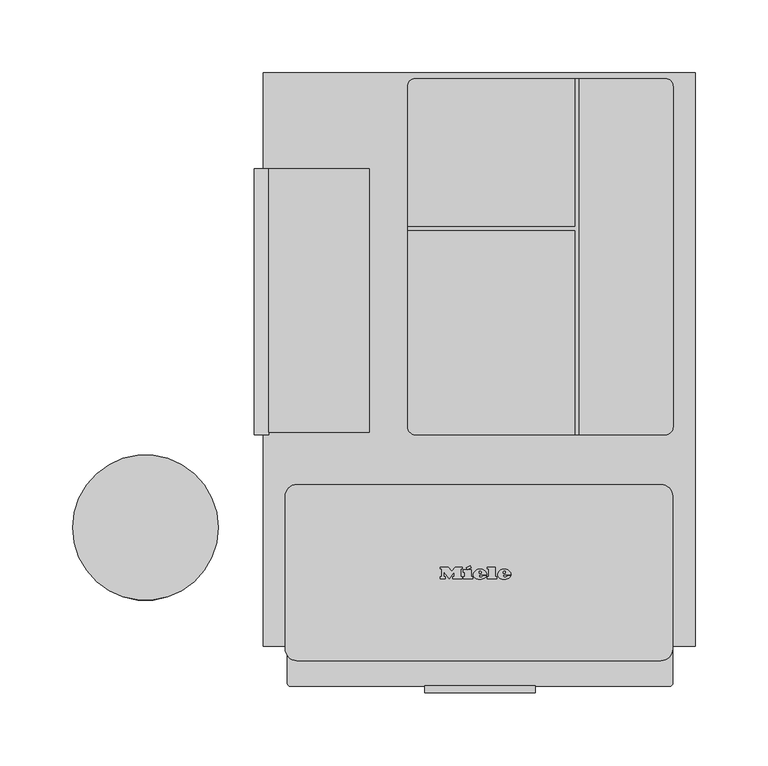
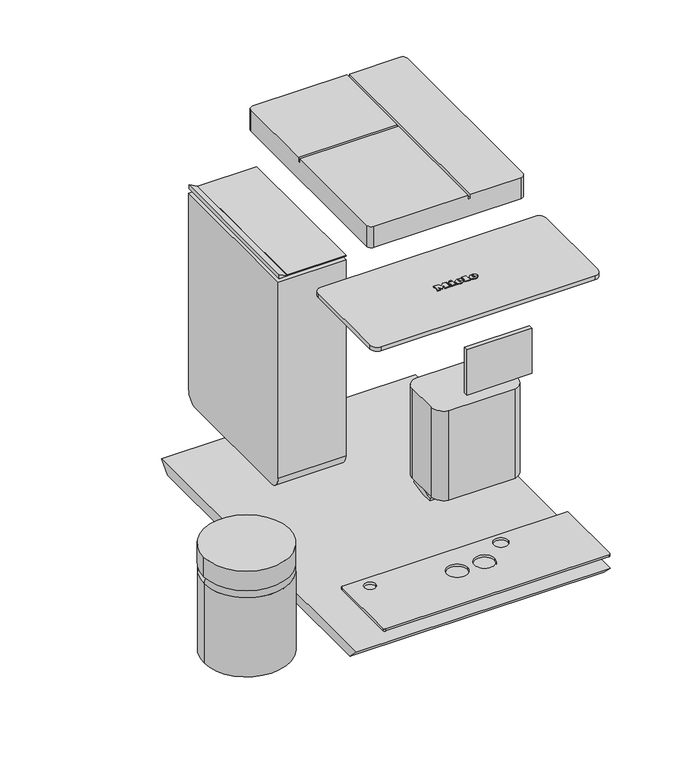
"""IFC4 building model written with IfcOpenShell, lengths in millimetres: proxy geometry, 11106260_USA_CM7750_OBSW : 29775020_USA_11106260_CM7750_OBSW."""

from ifc_helpers import new_model, si_unit, point, frame, frame_2d, origin, place, context, project, spatial, polyline, circle_curve, ellipse_curve, trimmed, segment, composite_curve, outline, extrude, source, transform, mapped, element, save
from ifc_brep_helpers import plane_surface, cylinder_surface, revolved_surface, extruded_surface, advanced_brep


def specialty_equipment_1049582b(model_context):
    return source(origin(), model_context, "Body", "SolidModel", [
        advanced_brep(
        [(-21.9798889, -369.1927719, 161.3772661), (-26.907768, -371.768887, 161.3772661), (-27.9558868, -374.6430309, 158.8788109), (-27.9558868, -374.6430309, 154.4386806), (-21.9798889, -369.1927719, 154.4386806), (-3.6390347, -369.1927719, 161.3772661), (-3.6390347, -369.1927719, 154.4386806), (-2.5488111, -367.8394647, 161.3772661), (-2.955399, -368.8197581, 154.4386806), (-2.5488111, -367.8394647, 154.6115327), (-2.5488111, -365.8411419, 161.3772661), (-2.5488111, -365.8411419, 154.963891), (2.5085862, -365.8421526, 161.3772661), (2.5085862, -365.8421526, 154.9637128), (2.5085862, -367.8394647, 161.3772661), (2.5085862, -367.8394647, 154.6115327), (3.5988064, -369.1927719, 161.3772661), (2.7634089, -368.8197581, 154.4386806), (3.5988064, -369.1927719, 154.4386806), (21.9798889, -369.1927719, 161.3772661), (21.9798889, -369.1927719, 154.4386806), (26.907768, -371.768887, 161.3772661), (48.9347044, -350.553441, 157.6595251), (48.9347044, -352.1242227, 164.4633282), (48.9347044, -358.515093, 164.4633282), (48.9347044, -370.8076358, 161.8504675), (48.9347044, -371.768887, 161.3772661), (48.9347044, -376.3814874, 157.3675938), (48.9347044, -382.6123957, 157.3675938), (48.9347044, -382.6123957, 154.4386806), (48.9347044, -368.8197581, 154.4386806), (-49.1367985, -350.553441, 157.6595251), (-49.1367985, -368.8197581, 154.4386806), (-49.1367985, -382.6123957, 154.4386806), (-49.1367985, -382.6123957, 157.3675938), (-49.1367985, -376.3814874, 157.3675938), (-49.1367985, -371.768887, 161.3772661), (-49.1367985, -370.8076358, 161.8504675), (-49.1367985, -358.515093, 164.4633282), (-49.1367985, -352.1242227, 164.4633282), (27.9558868, -376.3814874, 157.3675938), (27.9558868, -382.6123957, 157.3675938), (-27.9558868, -382.6123957, 157.3675938), (-27.9558868, -376.3814874, 157.3675938), (27.9558868, -374.6430309, 158.8788109), (27.9558868, -382.6123957, 154.4386806), (-27.9558868, -382.6123957, 154.4386806), (27.9558868, -374.6430309, 154.4386806)],
        [
            (0, 1, circle_curve(frame((-21.9798889, -375.1941266, 161.3772661), z_axis=(0.0, 0.0, 1.0), x_axis=(1.0, 0.0, 0.0)), 6.0013546)),
            (1, 2, ellipse_curve(frame((-21.9798889, -375.1941266, 158.3997508), z_axis=(0.0, -0.6560590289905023, 0.7547095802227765), x_axis=(0.0, 0.7547095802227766, 0.6560590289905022)), 7.9518729, 6.0013546)),
            (2, 3),
            (3, 4, circle_curve(frame((-21.9798889, -375.1941266, 154.4386806), z_axis=(0.0, 0.0, -1.0), x_axis=(1.0, 0.0, 0.0)), 6.0013546)),
            (4, 0),
            (5, 0),
            (4, 6),
            (6, 5),
            (7, 5, circle_curve(frame((-3.9338609, -367.8394647, 161.3772661), z_axis=(0.0, 0.0, -1.0), x_axis=(1.0, 0.0, 0.0)), 1.3850498)),
            (6, 8, circle_curve(frame((-3.9338609, -367.8394647, 154.4386806), z_axis=(0.0, 0.0, 1.0), x_axis=(1.0, 0.0, 0.0)), 1.3850498)),
            (8, 9, ellipse_curve(frame((-3.9338609, -367.8394647, 154.6115327), z_axis=(0.0, -0.17364817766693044, 0.984807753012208), x_axis=(0.0, -0.9848077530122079, -0.17364817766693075)), 1.4064164, 1.3850498)),
            (9, 7),
            (10, 7),
            (9, 11),
            (11, 10),
            (12, 10, circle_curve(frame((-0.0204016, -367.2885217, 161.3772661), z_axis=(0.0, 0.0, 1.0), x_axis=(1.0, 0.0, 0.0)), 2.9133766)),
            (11, 13, ellipse_curve(frame((-0.0204016, -367.2885217, 154.7086789), z_axis=(0.0, 0.17364817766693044, -0.984807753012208), x_axis=(0.0, 0.9848077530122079, 0.17364817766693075)), 2.9583201, 2.9133766)),
            (13, 12),
            (14, 12),
            (13, 15),
            (15, 14),
            (16, 14, circle_curve(frame((3.5988064, -368.0707917, 161.3772661), z_axis=(0.0, 0.0, -1.0), x_axis=(1.0, 0.0, 0.0)), 1.1219802)),
            (15, 17, ellipse_curve(frame((3.5988064, -368.0707917, 154.5707435), z_axis=(0.0, -0.17364817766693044, 0.984807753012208), x_axis=(0.0, -0.9848077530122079, -0.17364817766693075)), 1.1392885, 1.1219802)),
            (17, 18, circle_curve(frame((3.5988064, -368.0707917, 154.4386806), z_axis=(0.0, 0.0, 1.0), x_axis=(1.0, 0.0, 0.0)), 1.1219802)),
            (18, 16),
            (19, 16),
            (18, 20),
            (20, 19),
            (19, 21, circle_curve(frame((21.9798889, -375.1941266, 161.3772661), z_axis=(0.0, 0.0, -1.0), x_axis=(1.0, 0.0, 0.0)), 6.0013546)),
            (21, 1),
            (22, 23),
            (23, 24),
            (24, 25),
            (25, 26, circle_curve(frame((48.9347044, -370.3539063, 159.7158378), z_axis=(1.0, 0.0, 0.0), x_axis=(0.0, 1.0, 0.0)), 2.1823186)),
            (26, 27),
            (27, 28),
            (28, 29),
            (29, 30),
            (30, 22),
            (31, 32),
            (32, 33),
            (33, 34),
            (34, 35),
            (35, 36),
            (36, 37, circle_curve(frame((-49.1367985, -370.3539063, 159.7158378), z_axis=(-1.0, 0.0, 0.0), x_axis=(0.0, 1.0, 0.0)), 2.1823186)),
            (37, 38),
            (38, 39),
            (39, 31),
            (22, 31),
            (39, 23),
            (38, 24),
            (37, 25),
            (36, 1),
            (21, 26),
            (27, 40),
            (40, 41),
            (41, 28),
            (34, 42),
            (42, 43),
            (43, 35),
            (21, 44, ellipse_curve(frame((21.9798889, -375.1941266, 158.3997508), z_axis=(0.0, 0.6560590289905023, -0.7547095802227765), x_axis=(0.0, 0.7547095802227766, 0.6560590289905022)), 7.9518729, 6.0013546)),
            (44, 40),
            (43, 2),
            (41, 45),
            (45, 29),
            (33, 46),
            (46, 42),
            (45, 47),
            (47, 20, circle_curve(frame((21.9798889, -375.1941266, 154.4386806), z_axis=(0.0, 0.0, 1.0), x_axis=(1.0, 0.0, 0.0)), 6.0013546)),
            (17, 30),
            (32, 8),
            (3, 46),
            (44, 47),
        ],
        [
            revolved_surface(polyline([(-15.9785343, -375.1941266, 163.6166488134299), (-15.9785343, -375.1941266, 153.1828527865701)]), (-21.9798889, -375.1941266, 148.8055891), (0.0, 0.0, 1.0)),
            plane_surface(frame((-3.6390347, -369.1927719, 161.3772661), z_axis=(0.0, -1.0, 0.0), x_axis=(0.0, 0.0, -1.0))),
            cylinder_surface(frame((-3.9338609, -367.8394647, 148.8055891), z_axis=(0.0, 0.0, -1.0), x_axis=(1.0, 0.0, 0.0)), 1.3850498),
            plane_surface(frame((-2.5488111, -365.8411419, 161.3772661), z_axis=(1.0, 0.0, 0.0), x_axis=(0.0, 0.0, -1.0))),
            revolved_surface(polyline([(2.892975, -367.2885217, 161.3772661), (2.892975, -367.2885217, 154.19497200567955)]), (-0.0204016, -367.2885217, 148.8055891), (0.0, 0.0, 1.0)),
            plane_surface(frame((2.5085862, -367.8394647, 161.3772661), z_axis=(-1.0, 0.0, 0.0), x_axis=(0.0, 0.0, -1.0))),
            cylinder_surface(frame((3.5988064, -368.0707917, 148.8055891), z_axis=(0.0, 0.0, -1.0), x_axis=(1.0, 0.0, 0.0)), 1.1219802),
            plane_surface(frame((21.9798889, -369.1927719, 161.3772661), z_axis=(0.0, -1.0, 0.0), x_axis=(0.0, 0.0, -1.0))),
            plane_surface(frame((3.5988064, -369.1927719, 161.3772661), z_axis=(0.0, 0.0, -1.0), x_axis=(-1.0, 0.0, 0.0))),
            plane_surface(frame((48.9347044, -352.1242227, 164.4633282), z_axis=(1.0, 0.0, 0.0), x_axis=(0.0, -0.22495105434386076, 0.9743700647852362))),
            plane_surface(frame((-49.1367985, -352.1242227, 164.4633282), z_axis=(-1.0, 0.0, 0.0), x_axis=(0.0, 0.22495105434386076, -0.9743700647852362))),
            plane_surface(frame((48.9347044, -350.553441, 157.6595251), z_axis=(0.0, 0.9743700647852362, 0.22495105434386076), x_axis=(-1.0, 0.0, 0.0))),
            plane_surface(frame((48.9347044, -352.1242227, 164.4633282), z_axis=(0.0, 0.0, 1.0), x_axis=(-1.0, 0.0, 0.0))),
            plane_surface(frame((48.9347044, -358.515093, 164.4633282), z_axis=(0.0, -0.20791169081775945, 0.9781476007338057), x_axis=(-1.0, 0.0, 0.0))),
            cylinder_surface(frame((-49.1367985, -370.3539063, 159.7158378), z_axis=(1.0, 0.0, 0.0), x_axis=(0.0, 1.0, 0.0)), 2.1823186),
            plane_surface(frame((48.9347044, -376.3814874, 157.3675938), z_axis=(0.0, 0.0, 1.0), x_axis=(-1.0, 0.0, 0.0))),
            plane_surface(frame((48.9347044, -371.768887, 161.3772661), z_axis=(0.0, -0.6560590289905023, 0.7547095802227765), x_axis=(-1.0, 0.0, 0.0))),
            plane_surface(frame((48.9347044, -382.6123957, 157.3675938), z_axis=(0.0, -1.0, 0.0), x_axis=(-1.0, 0.0, 0.0))),
            plane_surface(frame((48.9347044, -382.6123957, 154.4386806), z_axis=(0.0, 0.0, -1.0), x_axis=(-1.0, 0.0, 0.0))),
            plane_surface(frame((48.9347044, -368.8197581, 154.4386806), z_axis=(0.0, 0.17364817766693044, -0.984807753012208), x_axis=(-1.0, 0.0, 0.0))),
            plane_surface(frame((-27.9558868, -374.6430309, 161.3772661), z_axis=(1.0, 0.0, 0.0), x_axis=(0.0, 0.0, -1.0))),
            plane_surface(frame((27.9558868, -386.10478, 161.3772661), z_axis=(-1.0, 0.0, 0.0), x_axis=(0.0, 0.0, -1.0))),
            revolved_surface(polyline([(27.981243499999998, -375.1941266, 163.6166488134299), (27.981243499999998, -375.1941266, 153.1828527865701)]), (21.9798889, -375.1941266, 148.8055891), (0.0, 0.0, 1.0)),
        ],
        [
            (0, [[1, 2, 3, 4, 5]]),
            (1, [[6, -5, 7, 8]]),
            (2, [[9, -8, 10, 11, 12]]),
            (3, [[13, -12, 14, 15]]),
            (4, [[16, -15, 17, 18]]),
            (5, [[19, -18, 20, 21]]),
            (6, [[22, -21, 23, 24, 25]]),
            (7, [[26, -25, 27, 28]]),
            (8, [[-6, -9, -13, -16, -19, -22, -26, 29, 30, -1]]),
            (9, [[31, 32, 33, 34, 35, 36, 37, 38, 39]]),
            (10, [[40, 41, 42, 43, 44, 45, 46, 47, 48]]),
            (11, [[-31, 49, -48, 50]]),
            (12, [[-32, -50, -47, 51]]),
            (13, [[-33, -51, -46, 52]]),
            (14, [[-34, -52, -45, 53, -30, 54]]),
            (15, [[-36, 55, 56, 57]]),
            (15, [[-43, 58, 59, 60]]),
            (16, [[-35, -54, 61, 62, -55]]),
            (16, [[-44, -60, 63, -2, -53]]),
            (17, [[-37, -57, 64, 65]]),
            (17, [[-42, 66, 67, -58]]),
            (18, [[-38, -65, 68, 69, -27, -24, 70]]),
            (18, [[-41, 71, -10, -7, -4, 72, -66]]),
            (19, [[-39, -70, -23, -20, -17, -14, -11, -71, -40, -49]]),
            (20, [[-3, -63, -59, -67, -72]]),
            (21, [[73, -68, -64, -56, -62]]),
            (22, [[-29, -28, -69, -73, -61]]),
        ],
    ),
        extrude(outline(composite_curve([segment(polyline([(38.3905057, -403.7777426), (-39.7114952, -403.7777426)]), True, "CONTINUOUS"), segment(trimmed(circle_curve(frame_2d((-35.7828285, -388.5783629)), 15.6989033), [point((-39.7114952, -403.7777426))], [point((-51.4817318, -388.5783629))], False, "CARTESIAN"), True, "CONTINUOUS"), segment(polyline([(-51.4817318, -388.5783629), (-51.4817318, -350.8926661)]), True, "CONTINUOUS"), segment(trimmed(circle_curve(frame_2d((-37.9279503, -350.8926661)), 13.5537815), [point((-51.4817318, -350.8926661))], [point((-37.9279503, -337.3388846))], False, "CARTESIAN"), True, "CONTINUOUS"), segment(polyline([(-37.9279503, -337.3388846), (36.6069608, -337.3388846)]), True, "CONTINUOUS"), segment(trimmed(circle_curve(frame_2d((36.6069608, -350.8926661)), 13.5537815), [point((36.6069608, -337.3388846))], [point((50.1607423, -350.8926661))], False, "CARTESIAN"), True, "CONTINUOUS"), segment(polyline([(50.1607423, -350.8926661), (50.1607423, -388.5783629)]), True, "CONTINUOUS"), segment(trimmed(circle_curve(frame_2d((34.461839, -388.5783629)), 15.6989033), [point((50.1607423, -388.5783629))], [point((38.3905057, -403.7777426))], False, "CARTESIAN"), True, "CONTINUOUS")], self_intersect=False)), frame((0.0, 0.0, 164.4633282), z_axis=(0.0, 0.0, 1.0), x_axis=(1.0, 0.0, 0.0)), (0.0, 0.0, 1.0), 110.4083251),
        extrude(outline(composite_curve([segment(trimmed(circle_curve(frame_2d((130.7278103, -348.6990032)), 2.0), [point((130.7278103, -346.6990032))], [point((132.7278103, -348.6990032))], False, "CARTESIAN"), True, "CONTINUOUS"), segment(polyline([(132.7278103, -348.6990032), (132.7278103, -431.7959701)]), True, "CONTINUOUS"), segment(trimmed(circle_curve(frame_2d((130.7278103, -431.7959701)), 2.0), [point((132.7278103, -431.7959701))], [point((130.7278103, -433.7959701))], False, "CARTESIAN"), True, "CONTINUOUS"), segment(polyline([(130.7278103, -433.7959701), (-130.3254782, -433.7959701)]), True, "CONTINUOUS"), segment(trimmed(circle_curve(frame_2d((-130.3254782, -431.7959701)), 2.0), [point((-130.3254782, -433.7959701))], [point((-132.3254782, -431.7959701))], False, "CARTESIAN"), True, "CONTINUOUS"), segment(polyline([(-132.3254782, -431.7959701), (-132.3254782, -348.6990032)]), True, "CONTINUOUS"), segment(trimmed(circle_curve(frame_2d((-130.3254782, -348.6990032)), 2.0), [point((-132.3254782, -348.6990032))], [point((-130.3254782, -346.6990032))], False, "CARTESIAN"), True, "CONTINUOUS"), segment(polyline([(-130.3254782, -346.6990032), (130.7278103, -346.6990032)]), True, "CONTINUOUS")], self_intersect=False), holes=[composite_curve([segment(trimmed(circle_curve(frame_2d((-106.0, -360.0695515)), 6.5), [point((-112.5, -360.0695515))], [point((-99.5, -360.0695515))], True, "CARTESIAN"), True, "CONTINUOUS"), segment(trimmed(circle_curve(frame_2d((-106.0, -360.0695515)), 6.5), [point((-99.5, -360.0695515))], [point((-112.5, -360.0695515))], True, "CARTESIAN"), True, "CONTINUOUS")], self_intersect=False), composite_curve([segment(trimmed(circle_curve(frame_2d((47.0, -360.0695515)), 8.3097553), [point((38.6902447, -360.0695515))], [point((55.3097553, -360.0695515))], True, "CARTESIAN"), True, "CONTINUOUS"), segment(trimmed(circle_curve(frame_2d((47.0, -360.0695515)), 8.3097553), [point((55.3097553, -360.0695515))], [point((38.6902447, -360.0695515))], True, "CARTESIAN"), True, "CONTINUOUS")], self_intersect=False), composite_curve([segment(trimmed(circle_curve(frame_2d((-16.2949549, -381.0695496)), 11.8347447), [point((-28.1296996, -381.0695496))], [point((-4.4602101, -381.0695496))], True, "CARTESIAN"), True, "CONTINUOUS"), segment(trimmed(circle_curve(frame_2d((-16.2949549, -381.0695496)), 11.8347447), [point((-4.4602101, -381.0695496))], [point((-28.1296996, -381.0695496))], True, "CARTESIAN"), True, "CONTINUOUS")], self_intersect=False), composite_curve([segment(trimmed(circle_curve(frame_2d((15.7158998, -381.0695496)), 11.8148867), [point((3.9010131, -381.0695496))], [point((27.5307866, -381.0695496))], True, "CARTESIAN"), True, "CONTINUOUS"), segment(trimmed(circle_curve(frame_2d((15.7158998, -381.0695496)), 11.8148867), [point((27.5307866, -381.0695496))], [point((3.9010131, -381.0695496))], True, "CARTESIAN"), True, "CONTINUOUS")], self_intersect=False)]), frame((0.0, 0.0, 53.082887), z_axis=(0.0, 0.0, 1.0), x_axis=(1.0, 0.0, 0.0)), (0.0, 0.0, 1.0), 2.5999991),
        advanced_brep(
        [(16.1938716, -357.9860073, 393.0), (16.1938716, -357.1780073, 393.0), (21.5458716, -357.1780073, 393.0), (12.2338716, -357.1780073, 393.0), (14.4338716, -359.8820073, 393.0), (21.4098716, -357.9860073, 393.0), (18.9938716, -357.9860073, 393.0), (17.0898716, -358.8820073, 393.0), (16.1938716, -356.1540073, 393.0), (16.1938716, -355.2820073, 393.0), (17.5618716, -355.2820073, 393.0), (17.5618716, -356.1540073, 393.0), (16.1938716, -357.9860073, 392.0), (17.0898716, -358.8820073, 392.0), (18.9938716, -357.9860073, 392.0), (21.4098716, -357.9860073, 392.0), (14.4338716, -359.8820073, 392.0), (12.2338716, -357.1780073, 392.0), (21.5458716, -357.1780073, 392.0), (16.1938716, -357.1780073, 392.0), (16.1938716, -356.1540073, 392.0), (17.5618716, -356.1540073, 392.0), (17.5618716, -355.2820073, 392.0), (16.1938716, -355.2820073, 392.0)],
        [
            (0, 1),
            (1, 2),
            (2, 3, ellipse_curve(frame((16.8898716, -357.1780073, 393.0), z_axis=(0.0, 0.0, 1.0), x_axis=(-1.0, 0.0, 0.0)), 4.656, 3.848)),
            (3, 4, circle_curve(frame((15.3299152, -356.9060073, 393.0), z_axis=(0.0, 0.0, 1.0), x_axis=(0.0, -1.0, 0.0)), 3.1079688)),
            (4, 5, circle_curve(frame((16.7966651, -354.7940073, 393.0), z_axis=(0.0, 0.0, 1.0), x_axis=(0.0, -1.0, 0.0)), 5.6098607)),
            (5, 6),
            (6, 7, circle_curve(frame((17.4809304, -357.2420073, 393.0), z_axis=(0.0, 0.0, -1.0), x_axis=(0.0, -1.0, 0.0)), 1.6859795)),
            (7, 0, circle_curve(frame((17.0898716, -357.9860073, 393.0), z_axis=(0.0, 0.0, -1.0), x_axis=(0.0, -1.0, 0.0)), 0.896)),
            (8, 9),
            (9, 10, circle_curve(frame((16.8778716, -355.2820073, 393.0), z_axis=(0.0, 0.0, -1.0), x_axis=(0.0, -1.0, 0.0)), 0.684)),
            (10, 11),
            (11, 8),
            (12, 13, circle_curve(frame((17.0898716, -357.9860073, 392.0), z_axis=(0.0, 0.0, 1.0), x_axis=(0.0, -1.0, 0.0)), 0.896)),
            (13, 14, circle_curve(frame((17.4809304, -357.2420073, 392.0), z_axis=(0.0, 0.0, 1.0), x_axis=(0.0, -1.0, 0.0)), 1.6859795)),
            (14, 15),
            (15, 16, circle_curve(frame((16.7966651, -354.7940073, 392.0), z_axis=(0.0, 0.0, -1.0), x_axis=(0.0, -1.0, 0.0)), 5.6098607)),
            (16, 17, circle_curve(frame((15.3299152, -356.9060073, 392.0), z_axis=(0.0, 0.0, -1.0), x_axis=(0.0, -1.0, 0.0)), 3.1079688)),
            (17, 18, ellipse_curve(frame((16.8898716, -357.1780073, 392.0), z_axis=(0.0, 0.0, -1.0), x_axis=(-1.0, 0.0, 0.0)), 4.656, 3.848)),
            (18, 19),
            (19, 12),
            (20, 21),
            (21, 22),
            (22, 23, circle_curve(frame((16.8778716, -355.2820073, 392.0), z_axis=(0.0, 0.0, 1.0), x_axis=(0.0, -1.0, 0.0)), 0.684)),
            (23, 20),
            (0, 12),
            (19, 1),
            (18, 2),
            (5, 15),
            (14, 6),
            (17, 3),
            (13, 7),
            (16, 4),
            (8, 20),
            (23, 9),
            (22, 10),
            (21, 11),
        ],
        [
            plane_surface(frame((16.1938716, -357.1780073, 393.0), z_axis=(0.0, 0.0, 1.0), x_axis=(0.0, 1.0, 0.0))),
            plane_surface(frame((16.1938716, -357.1780073, 392.0), z_axis=(0.0, 0.0, -1.0), x_axis=(0.0, -1.0, 0.0))),
            plane_surface(frame((16.1938716, -357.9860073, 393.0), z_axis=(1.0, 0.0, 0.0), x_axis=(0.0, 0.0, -1.0))),
            plane_surface(frame((16.1938716, -357.1780073, 393.0), z_axis=(0.0, -1.0, 0.0), x_axis=(0.0, 0.0, -1.0))),
            plane_surface(frame((21.4098716, -357.9860073, 393.0), z_axis=(0.0, 1.0, 0.0), x_axis=(0.0, 0.0, -1.0))),
            extruded_surface(trimmed(ellipse_curve(frame((16.8898716, -357.1780073, 391.0), z_axis=(0.0, 0.0, 1.0), x_axis=(-1.0, 0.0, 0.0)), 4.656, 3.848), [point((21.5458716, -357.1780073, 391.0))], [point((12.2338716, -357.1780073, 391.0))], True, "CARTESIAN"), (0.0, 0.0, 1.0), 1.0),
            revolved_surface(polyline([(17.4809304, -358.9279868, 392.0), (17.4809304, -358.9279868, 393.0)]), (17.4809304, -357.2420073, 392.0), (0.0, 0.0, -1.0)),
            revolved_surface(polyline([(17.0898716, -358.8820073, 392.0), (17.0898716, -358.8820073, 393.0)]), (17.0898716, -357.9860073, 392.0), (0.0, 0.0, -1.0)),
            cylinder_surface(frame((15.3299152, -356.9060073, 392.0), z_axis=(0.0, 0.0, 1.0), x_axis=(0.0, -1.0, 0.0)), 3.1079688),
            cylinder_surface(frame((16.7966651, -354.7940073, 392.0), z_axis=(0.0, 0.0, 1.0), x_axis=(0.0, -1.0, 0.0)), 5.6098607),
            plane_surface(frame((16.1938716, -356.1540073, 393.0), z_axis=(1.0, 0.0, 0.0), x_axis=(0.0, 0.0, -1.0))),
            revolved_surface(polyline([(16.8778716, -355.9660073, 392.0), (16.8778716, -355.9660073, 393.0)]), (16.8778716, -355.2820073, 392.0), (0.0, 0.0, -1.0)),
            plane_surface(frame((17.5618716, -355.2820073, 393.0), z_axis=(-1.0, 0.0, 0.0), x_axis=(0.0, 0.0, -1.0))),
            plane_surface(frame((17.5618716, -356.1540073, 393.0), z_axis=(0.0, 1.0, 0.0), x_axis=(0.0, 0.0, -1.0))),
        ],
        [
            (0, [[1, 2, 3, 4, 5, 6, 7, 8], [9, 10, 11, 12]]),
            (1, [[13, 14, 15, 16, 17, 18, 19, 20], [21, 22, 23, 24]]),
            (2, [[-1, 25, -20, 26]]),
            (3, [[-2, -26, -19, 27]]),
            (4, [[-6, 28, -15, 29]]),
            (5, [[-3, -27, -18, 30]]),
            (6, [[-7, -29, -14, 31]]),
            (7, [[-8, -31, -13, -25]]),
            (8, [[-4, -30, -17, 32]]),
            (9, [[-5, -32, -16, -28]]),
            (10, [[-9, 33, -24, 34]]),
            (11, [[-10, -34, -23, 35]]),
            (12, [[-11, -35, -22, 36]]),
            (13, [[-12, -36, -21, -33]]),
        ],
    ),
        advanced_brep(
        [(-0.5021284, -357.9860073, 393.0), (-0.5021284, -357.1780073, 393.0), (4.8498716, -357.1780073, 393.0), (-4.4621284, -357.1780073, 393.0), (-2.2621284, -359.8820073, 393.0), (4.7138716, -357.9860073, 393.0), (2.2978716, -357.9860073, 393.0), (0.3938716, -358.8820073, 393.0), (-0.5021284, -356.1540073, 393.0), (-0.5021284, -355.2820073, 393.0), (0.8658716, -355.2820073, 393.0), (0.8658716, -356.1540073, 393.0), (-0.5021284, -357.9860073, 392.0), (0.3938716, -358.8820073, 392.0), (2.2978716, -357.9860073, 392.0), (4.7138716, -357.9860073, 392.0), (-2.2621284, -359.8820073, 392.0), (-4.4621284, -357.1780073, 392.0), (4.8498716, -357.1780073, 392.0), (-0.5021284, -357.1780073, 392.0), (-0.5021284, -356.1540073, 392.0), (0.8658716, -356.1540073, 392.0), (0.8658716, -355.2820073, 392.0), (-0.5021284, -355.2820073, 392.0)],
        [
            (0, 1),
            (1, 2),
            (2, 3, ellipse_curve(frame((0.1938716, -357.1780073, 393.0), z_axis=(0.0, 0.0, 1.0), x_axis=(-1.0, 0.0, 0.0)), 4.656, 3.848)),
            (3, 4, circle_curve(frame((-1.3660848, -356.9060073, 393.0), z_axis=(0.0, 0.0, 1.0), x_axis=(0.0, -1.0, 0.0)), 3.1079688)),
            (4, 5, circle_curve(frame((0.1006651, -354.7940073, 393.0), z_axis=(0.0, 0.0, 1.0), x_axis=(0.0, -1.0, 0.0)), 5.6098607)),
            (5, 6),
            (6, 7, circle_curve(frame((0.7849304, -357.2420073, 393.0), z_axis=(0.0, 0.0, -1.0), x_axis=(0.0, -1.0, 0.0)), 1.6859795)),
            (7, 0, circle_curve(frame((0.3938716, -357.9860073, 393.0), z_axis=(0.0, 0.0, -1.0), x_axis=(0.0, -1.0, 0.0)), 0.896)),
            (8, 9),
            (9, 10, circle_curve(frame((0.1818716, -355.2820073, 393.0), z_axis=(0.0, 0.0, -1.0), x_axis=(0.0, -1.0, 0.0)), 0.684)),
            (10, 11),
            (11, 8),
            (12, 13, circle_curve(frame((0.3938716, -357.9860073, 392.0), z_axis=(0.0, 0.0, 1.0), x_axis=(0.0, -1.0, 0.0)), 0.896)),
            (13, 14, circle_curve(frame((0.7849304, -357.2420073, 392.0), z_axis=(0.0, 0.0, 1.0), x_axis=(0.0, -1.0, 0.0)), 1.6859795)),
            (14, 15),
            (15, 16, circle_curve(frame((0.1006651, -354.7940073, 392.0), z_axis=(0.0, 0.0, -1.0), x_axis=(0.0, -1.0, 0.0)), 5.6098607)),
            (16, 17, circle_curve(frame((-1.3660848, -356.9060073, 392.0), z_axis=(0.0, 0.0, -1.0), x_axis=(0.0, -1.0, 0.0)), 3.1079688)),
            (17, 18, ellipse_curve(frame((0.1938716, -357.1780073, 392.0), z_axis=(0.0, 0.0, -1.0), x_axis=(-1.0, 0.0, 0.0)), 4.656, 3.848)),
            (18, 19),
            (19, 12),
            (20, 21),
            (21, 22),
            (22, 23, circle_curve(frame((0.1818716, -355.2820073, 392.0), z_axis=(0.0, 0.0, 1.0), x_axis=(0.0, -1.0, 0.0)), 0.684)),
            (23, 20),
            (0, 12),
            (19, 1),
            (18, 2),
            (5, 15),
            (14, 6),
            (17, 3),
            (13, 7),
            (16, 4),
            (8, 20),
            (23, 9),
            (22, 10),
            (21, 11),
        ],
        [
            plane_surface(frame((-0.5021284, -357.1780073, 393.0), z_axis=(0.0, 0.0, 1.0), x_axis=(0.0, 1.0, 0.0))),
            plane_surface(frame((-0.5021284, -357.1780073, 392.0), z_axis=(0.0, 0.0, -1.0), x_axis=(0.0, -1.0, 0.0))),
            plane_surface(frame((-0.5021284, -357.9860073, 393.0), z_axis=(1.0, 0.0, 0.0), x_axis=(0.0, 0.0, -1.0))),
            plane_surface(frame((-0.5021284, -357.1780073, 393.0), z_axis=(0.0, -1.0, 0.0), x_axis=(0.0, 0.0, -1.0))),
            plane_surface(frame((4.7138716, -357.9860073, 393.0), z_axis=(0.0, 1.0, 0.0), x_axis=(0.0, 0.0, -1.0))),
            extruded_surface(trimmed(ellipse_curve(frame((0.1938716, -357.1780073, 391.0), z_axis=(0.0, 0.0, 1.0), x_axis=(-1.0, 0.0, 0.0)), 4.656, 3.848), [point((4.8498716, -357.1780073, 391.0))], [point((-4.4621284, -357.1780073, 391.0))], True, "CARTESIAN"), (0.0, 0.0, 1.0), 1.0),
            revolved_surface(polyline([(0.7849304, -358.9279868, 392.0), (0.7849304, -358.9279868, 393.0)]), (0.7849304, -357.2420073, 392.0), (0.0, 0.0, -1.0)),
            revolved_surface(polyline([(0.3938716, -358.8820073, 392.0), (0.3938716, -358.8820073, 393.0)]), (0.3938716, -357.9860073, 392.0), (0.0, 0.0, -1.0)),
            cylinder_surface(frame((-1.3660848, -356.9060073, 392.0), z_axis=(0.0, 0.0, 1.0), x_axis=(0.0, -1.0, 0.0)), 3.1079688),
            cylinder_surface(frame((0.1006651, -354.7940073, 392.0), z_axis=(0.0, 0.0, 1.0), x_axis=(0.0, -1.0, 0.0)), 5.6098607),
            plane_surface(frame((-0.5021284, -356.1540073, 393.0), z_axis=(1.0, 0.0, 0.0), x_axis=(0.0, 0.0, -1.0))),
            revolved_surface(polyline([(0.1818716, -355.9660073, 392.0), (0.1818716, -355.9660073, 393.0)]), (0.1818716, -355.2820073, 392.0), (0.0, 0.0, -1.0)),
            plane_surface(frame((0.8658716, -355.2820073, 393.0), z_axis=(-1.0, 0.0, 0.0), x_axis=(0.0, 0.0, -1.0))),
            plane_surface(frame((0.8658716, -356.1540073, 393.0), z_axis=(0.0, 1.0, 0.0), x_axis=(0.0, 0.0, -1.0))),
        ],
        [
            (0, [[1, 2, 3, 4, 5, 6, 7, 8], [9, 10, 11, 12]]),
            (1, [[13, 14, 15, 16, 17, 18, 19, 20], [21, 22, 23, 24]]),
            (2, [[-1, 25, -20, 26]]),
            (3, [[-2, -26, -19, 27]]),
            (4, [[-6, 28, -15, 29]]),
            (5, [[-3, -27, -18, 30]]),
            (6, [[-7, -29, -14, 31]]),
            (7, [[-8, -31, -13, -25]]),
            (8, [[-4, -30, -17, 32]]),
            (9, [[-5, -32, -16, -28]]),
            (10, [[-9, 33, -24, 34]]),
            (11, [[-10, -34, -23, 35]]),
            (12, [[-11, -35, -22, 36]]),
            (13, [[-12, -36, -21, -33]]),
        ],
    ),
        extrude(outline(polyline([(-9.2461284, -352.3540073), (-6.5261284, -351.0900073), (-5.9261284, -352.3860073), (-8.6381284, -353.6500073), (-9.2461284, -352.3540073)])), frame((0.0, 0.0, 392.0), z_axis=(0.0, 0.0, 1.0), x_axis=(1.0, 0.0, 0.0)), (0.0, 0.0, 1.0), 1.0),
        extrude(outline(polyline([(-11.2221284, -353.8260073), (-5.8381284, -353.8260073), (-5.8381284, -358.5380073), (-4.9101284, -358.5380073), (-4.9101284, -359.8820073), (-11.2221284, -359.8820073), (-11.2221284, -358.5380073), (-10.2701284, -358.5380073), (-10.2701284, -355.2580073), (-11.2221284, -355.2580073), (-11.2221284, -353.8260073)])), frame((0.0, 0.0, 392.0), z_axis=(0.0, 0.0, 1.0), x_axis=(1.0, 0.0, 0.0)), (0.0, 0.0, 1.0), 1.0),
        extrude(outline(polyline([(5.2978716, -353.1860073), (5.2978716, -351.8820073), (10.8018716, -351.8820073), (10.8018716, -358.5380073), (11.7858716, -358.5380073), (11.7858716, -359.8820073), (5.2978716, -359.8820073), (5.2978716, -358.5380073), (6.2578716, -358.5380073), (6.2578716, -353.1860073), (5.2978716, -353.1860073)])), frame((0.0, 0.0, 392.0), z_axis=(0.0, 0.0, 1.0), x_axis=(1.0, 0.0, 0.0)), (0.0, 0.0, 1.0), 1.0),
        extrude(outline(polyline([(-27.1661284, -353.1860073), (-27.1661284, -351.8820073), (-21.5901284, -351.8820073), (-19.2461284, -354.8820073), (-16.9101284, -351.8820073), (-12.0381284, -351.8820073), (-12.0381284, -353.1860073), (-13.0541284, -353.1860073), (-13.0541284, -358.5380073), (-12.0381284, -358.5380073), (-12.0381284, -359.8820073), (-18.4221284, -359.8820073), (-18.4221284, -358.5380073), (-17.4381284, -358.5380073), (-17.4381284, -355.066785), (-21.0301284, -359.8820073), (-24.6061284, -355.1348825), (-24.6061284, -358.5380073), (-23.6461284, -358.5380073), (-23.6461284, -359.8820073), (-27.1661284, -359.8820073), (-27.1661284, -358.5380073), (-26.1981284, -358.5380073), (-26.1981284, -353.1860073), (-27.1661284, -353.1860073)])), frame((0.0, 0.0, 392.0), z_axis=(0.0, 0.0, 1.0), x_axis=(1.0, 0.0, 0.0)), (0.0, 0.0, 1.0), 1.0),
        advanced_brep(
        [(-279.9519875, -324.7667381, 97.7197494), (-179.9519875, -324.7667381, 97.7197494), (-179.9519875, -324.7667381, 0.0), (-279.9519875, -324.7667381, 0.0), (-229.9519875, -324.7667381, 0.0), (-229.9519875, -324.7667381, 106.5007718), (-185.3056905, -324.7667381, 106.5007718), (-274.5982845, -324.7667381, 106.5007718)],
        [
            (0, 1, circle_curve(frame((-229.9519875, -324.7667381, 97.7197494), z_axis=(0.0, 0.0, -1.0), x_axis=(1.0, 0.0, 0.0)), 50.0)),
            (1, 2),
            (2, 3, circle_curve(frame((-229.9519875, -324.7667381, 0.0), z_axis=(0.0, 0.0, 1.0), x_axis=(1.0, 0.0, 0.0)), 50.0)),
            (3, 0),
            (1, 0, circle_curve(frame((-229.9519875, -324.7667381, 97.7197494), z_axis=(0.0, 0.0, -1.0), x_axis=(1.0, 0.0, 0.0)), 50.0)),
            (3, 2, circle_curve(frame((-229.9519875, -324.7667381, 0.0), z_axis=(0.0, 0.0, 1.0), x_axis=(1.0, 0.0, 0.0)), 50.0)),
            (2, 4),
            (4, 3),
            (5, 6),
            (6, 7, circle_curve(frame((-229.9519875, -324.7667381, 106.5007718), z_axis=(0.0, 0.0, 1.0), x_axis=(1.0, 0.0, 0.0)), 44.646297)),
            (7, 5),
            (7, 6, circle_curve(frame((-229.9519875, -324.7667381, 106.5007718), z_axis=(0.0, 0.0, 1.0), x_axis=(1.0, 0.0, 0.0)), 44.646297)),
            (6, 1, circle_curve(frame((-191.2406727, -324.7667381, 96.8597103), z_axis=(0.0, 1.0, 0.0), x_axis=(-1.0, 0.0, 0.0)), 11.3213993)),
            (0, 7, circle_curve(frame((-268.6633023, -324.7667381, 96.8597103), z_axis=(0.0, 1.0, 0.0), x_axis=(1.0, 0.0, 0.0)), 11.3213993)),
        ],
        [
            cylinder_surface(frame((-229.9519875, -324.7667381, 107.1212675), z_axis=(0.0, 0.0, 1.0), x_axis=(1.0, 0.0, 0.0)), 50.0),
            plane_surface(frame((-229.9519875, -324.7667381, 0.0), z_axis=(0.0, 0.0, -1.0), x_axis=(1.0, 0.0, 0.0))),
            plane_surface(frame((-229.9519875, -324.7667381, 106.5007718), z_axis=(0.0, 0.0, 1.0), x_axis=(1.0, 0.0, 0.0))),
            revolved_surface(trimmed(ellipse_curve(frame((-191.2406727, -324.7667381, 96.8597103), z_axis=(0.0, -1.0, 0.0), x_axis=(-1.0, 0.0, 0.0)), 11.3213993, 11.3213993), [point((-179.9519875, -324.7667381, 97.7197494))], [point((-185.3056905, -324.7667381, 106.5007718))], True, "CARTESIAN"), (-229.9519875, -324.7667381, 107.1212675), (0.0, 0.0, 1.0)),
        ],
        [
            (0, [[1, 2, 3, 4]]),
            (0, [[5, -4, 6, -2]]),
            (1, [[-3, 7, 8]]),
            (1, [[-6, -8, -7]]),
            (2, [[9, 10, 11]]),
            (2, [[-11, 12, -9]]),
            (3, [[-10, 13, -1, 14]]),
            (3, [[-12, -14, -5, -13]]),
        ],
    ),
        extrude(outline(composite_curve([segment(trimmed(circle_curve(frame_2d((-229.9519875, -324.6697721)), 49.9999986), [point((-179.951989, -324.6697721))], [point((-279.9519861, -324.6697721))], False, "CARTESIAN"), True, "CONTINUOUS"), segment(trimmed(circle_curve(frame_2d((-229.9519875, -324.6697721)), 49.9999986), [point((-279.9519861, -324.6697721))], [point((-179.951989, -324.6697721))], False, "CARTESIAN"), True, "CONTINUOUS")], self_intersect=False)), frame((0.0, 0.0, 106.5007718), z_axis=(0.0, 0.0, 1.0), x_axis=(1.0, 0.0, 0.0)), (0.0, 0.0, 1.0), 24.0056341),
        extrude(outline(polyline([(-38.0, -433.3821149), (38.0, -433.3821149), (38.0, -438.3821149), (-38.0, -438.3821149), (-38.0, -433.3821149)])), frame((0.0, 0.0, 315.0), z_axis=(0.0, 0.0, 1.0), x_axis=(1.0, 0.0, 0.0)), (0.0, 0.0, 1.0), 56.0),
        extrude(outline(composite_curve([segment(polyline([(-133.7733765, -408.1485367), (-133.7733765, -303.1106834)]), True, "CONTINUOUS"), segment(trimmed(circle_curve(frame_2d((-125.7733765, -303.1106834)), 8.0), [point((-133.7733765, -303.1106834))], [point((-125.7733765, -295.1106834))], False, "CARTESIAN"), True, "CONTINUOUS"), segment(polyline([(-125.7733765, -295.1106834), (124.609314, -295.1106834)]), True, "CONTINUOUS"), segment(trimmed(circle_curve(frame_2d((124.609314, -303.1106834)), 8.0), [point((124.609314, -295.1106834))], [point((132.609314, -303.1106834))], False, "CARTESIAN"), True, "CONTINUOUS"), segment(polyline([(132.609314, -303.1106834), (132.609314, -408.1485367)]), True, "CONTINUOUS"), segment(trimmed(circle_curve(frame_2d((124.609314, -408.1485367)), 8.0), [point((132.609314, -408.1485367))], [point((124.609314, -416.1485367))], False, "CARTESIAN"), True, "CONTINUOUS"), segment(polyline([(124.609314, -416.1485367), (-125.7733765, -416.1485367)]), True, "CONTINUOUS"), segment(trimmed(circle_curve(frame_2d((-125.7733765, -408.1485367)), 8.0), [point((-125.7733765, -416.1485367))], [point((-133.7733765, -408.1485367))], False, "CARTESIAN"), True, "CONTINUOUS")], self_intersect=False)), frame((0.0, 0.0, 387.0), z_axis=(0.0, 0.0, 1.0), x_axis=(1.0, 0.0, 0.0)), (0.0, 0.0, 1.0), 5.0),
        advanced_brep(
        [(-44.1888298, -15.9381714, 418.0997755), (-49.6888298, -21.4381714, 418.0997755), (-49.6888298, -117.5732269, 418.0997755), (65.4611664, -117.5732269, 418.0997755), (65.4611664, -15.9381714, 418.0997755), (-49.6888298, -255.4311624, 418.0997755), (-44.1888298, -260.9311624, 418.0997755), (65.4611664, -260.9311624, 418.0997755), (65.4611664, -120.5732269, 418.0997755), (-49.6888298, -120.5732269, 418.0997755), (127.4860487, -260.9311624, 418.0997755), (132.9860487, -255.4311624, 418.0997755), (132.9860487, -21.4381714, 418.0997755), (127.4860487, -15.9381714, 418.0997755), (68.4788361, -15.9381714, 418.0997755), (68.4788361, -260.9311624, 418.0997755), (-44.1888298, -15.9381714, 392.0), (127.4860487, -15.9381714, 392.0), (132.9860487, -21.4381714, 392.0), (132.9860487, -255.4311624, 392.0), (127.4860487, -260.9311624, 392.0), (-44.1888298, -260.9311624, 392.0), (-49.6888298, -255.4311624, 392.0), (-49.6888298, -21.4381714, 392.0), (-49.6888298, -120.5732269, 412.9997694), (-49.6888298, -117.5732269, 412.9997694), (68.4788361, -260.9311624, 412.9997694), (65.4611664, -260.9311624, 412.9997694), (65.4611664, -15.9381714, 412.9997694), (68.4788361, -15.9381714, 412.9997694), (65.4611664, -117.5732269, 412.9997694), (65.4611664, -120.5732269, 412.9997694)],
        [
            (0, 1, circle_curve(frame((-44.1888298, -21.4381714, 418.0997755), z_axis=(0.0, 0.0, 1.0), x_axis=(1.0, 0.0, 0.0)), 5.5)),
            (1, 2),
            (2, 3),
            (3, 4),
            (4, 0),
            (5, 6, circle_curve(frame((-44.1888298, -255.4311624, 418.0997755), z_axis=(0.0, 0.0, 1.0), x_axis=(1.0, 0.0, 0.0)), 5.5)),
            (6, 7),
            (7, 8),
            (8, 9),
            (9, 5),
            (10, 11, circle_curve(frame((127.4860487, -255.4311624, 418.0997755), z_axis=(0.0, 0.0, 1.0), x_axis=(1.0, 0.0, 0.0)), 5.5)),
            (11, 12),
            (12, 13, circle_curve(frame((127.4860487, -21.4381714, 418.0997755), z_axis=(0.0, 0.0, 1.0), x_axis=(1.0, 0.0, 0.0)), 5.5)),
            (13, 14),
            (14, 15),
            (15, 10),
            (16, 17),
            (17, 18, circle_curve(frame((127.4860487, -21.4381714, 392.0), z_axis=(0.0, 0.0, -1.0), x_axis=(1.0, 0.0, 0.0)), 5.5)),
            (18, 19),
            (19, 20, circle_curve(frame((127.4860487, -255.4311624, 392.0), z_axis=(0.0, 0.0, -1.0), x_axis=(1.0, 0.0, 0.0)), 5.5)),
            (20, 21),
            (21, 22, circle_curve(frame((-44.1888298, -255.4311624, 392.0), z_axis=(0.0, 0.0, -1.0), x_axis=(1.0, 0.0, 0.0)), 5.5)),
            (22, 23),
            (23, 16, circle_curve(frame((-44.1888298, -21.4381714, 392.0), z_axis=(0.0, 0.0, -1.0), x_axis=(1.0, 0.0, 0.0)), 5.5)),
            (22, 5),
            (9, 24),
            (24, 25),
            (25, 2),
            (1, 23),
            (20, 10),
            (15, 26),
            (26, 27),
            (27, 7),
            (6, 21),
            (11, 19),
            (18, 12),
            (16, 0),
            (4, 28),
            (28, 29),
            (29, 14),
            (13, 17),
            (30, 25),
            (24, 31),
            (31, 27),
            (26, 29),
            (28, 30),
            (30, 3),
            (8, 31),
        ],
        [
            plane_surface(frame((-38.6888298, -21.4381714, 418.0997755), z_axis=(0.0, 0.0, 1.0), x_axis=(0.0, 1.0, 0.0))),
            plane_surface(frame((-38.6888298, -21.4381714, 392.0), z_axis=(0.0, 0.0, -1.0), x_axis=(0.0, -1.0, 0.0))),
            plane_surface(frame((-49.6888298, -21.4381714, 418.0997755), z_axis=(-1.0, 0.0, 0.0), x_axis=(0.0, 0.0, -1.0))),
            plane_surface(frame((-44.1888298, -260.9311624, 418.0997755), z_axis=(0.0, -1.0, 0.0), x_axis=(0.0, 0.0, -1.0))),
            plane_surface(frame((132.9860487, -255.4311624, 418.0997755), z_axis=(1.0, 0.0, 0.0), x_axis=(0.0, 0.0, -1.0))),
            plane_surface(frame((127.4860487, -15.9381714, 418.0997755), z_axis=(0.0, 1.0, 0.0), x_axis=(0.0, 0.0, -1.0))),
            cylinder_surface(frame((-44.1888298, -21.4381714, 392.0), z_axis=(0.0, 0.0, 1.0), x_axis=(1.0, 0.0, 0.0)), 5.5),
            cylinder_surface(frame((-44.1888298, -255.4311624, 392.0), z_axis=(0.0, 0.0, 1.0), x_axis=(1.0, 0.0, 0.0)), 5.5),
            cylinder_surface(frame((127.4860487, -255.4311624, 392.0), z_axis=(0.0, 0.0, 1.0), x_axis=(1.0, 0.0, 0.0)), 5.5),
            cylinder_surface(frame((127.4860487, -21.4381714, 392.0), z_axis=(0.0, 0.0, 1.0), x_axis=(1.0, 0.0, 0.0)), 5.5),
            plane_surface(frame((-49.6888298, -117.5732269, 412.9997694), z_axis=(0.0, 0.0, 1.0), x_axis=(1.0, 0.0, 0.0))),
            plane_surface(frame((65.4611664, -117.5732269, 423.1338648), z_axis=(0.0, -1.0, 0.0), x_axis=(0.0, 0.0, -1.0))),
            plane_surface(frame((-49.6888298, -120.5732269, 423.1338648), z_axis=(0.0, 1.0, 0.0), x_axis=(0.0, 0.0, -1.0))),
            plane_surface(frame((65.4611664, -120.5732269, 423.1338648), z_axis=(1.0, 0.0, 0.0), x_axis=(0.0, 0.0, -1.0))),
            plane_surface(frame((68.4788361, -260.9311624, 423.1338648), z_axis=(-1.0, 0.0, 0.0), x_axis=(0.0, 0.0, -1.0))),
            plane_surface(frame((65.4611664, -15.9381714, 423.1338648), z_axis=(1.0, 0.0, 0.0), x_axis=(0.0, 0.0, -1.0))),
        ],
        [
            (0, [[1, 2, 3, 4, 5]]),
            (0, [[6, 7, 8, 9, 10]]),
            (0, [[11, 12, 13, 14, 15, 16]]),
            (1, [[17, 18, 19, 20, 21, 22, 23, 24]]),
            (2, [[-23, 25, -10, 26, 27, 28, -2, 29]]),
            (3, [[-21, 30, -16, 31, 32, 33, -7, 34]]),
            (4, [[-12, 35, -19, 36]]),
            (5, [[-17, 37, -5, 38, 39, 40, -14, 41]]),
            (6, [[-1, -37, -24, -29]]),
            (7, [[-6, -25, -22, -34]]),
            (8, [[-11, -30, -20, -35]]),
            (9, [[-13, -36, -18, -41]]),
            (10, [[42, -27, 43, 44, -32, 45, -39, 46]]),
            (11, [[-42, 47, -3, -28]]),
            (12, [[-43, -26, -9, 48]]),
            (13, [[-44, -48, -8, -33]]),
            (14, [[-45, -31, -15, -40]]),
            (15, [[-46, -38, -4, -47]]),
        ],
    ),
        extrude(outline(composite_curve([segment(trimmed(circle_curve(frame_2d((-92.7820282, 144.218936)), 14.9999847), [point((-77.7820435, 144.218936))], [point((-92.7820282, 129.2189512))], False, "CARTESIAN"), True, "CONTINUOUS"), segment(polyline([(-92.7820282, 129.2189512), (-243.9820328, 129.2189512)]), True, "CONTINUOUS"), segment(trimmed(circle_curve(frame_2d((-243.9820328, 144.2189512)), 15.0), [point((-243.9820328, 129.2189512))], [point((-258.9820328, 144.2189512))], False, "CARTESIAN"), True, "CONTINUOUS"), segment(polyline([(-258.9820328, 144.2189512), (-258.9820328, 386.6954271), (-77.7820435, 386.6954271), (-77.7820435, 144.218936)]), True, "CONTINUOUS")], self_intersect=False)), frame((-155.0, 0.0, 0.0), z_axis=(1.0, 0.0, 0.0), x_axis=(0.0, 1.0, 0.0)), (0.0, 0.0, 1.0), 78.9431152),
        extrude(outline(polyline([(-76.0568848, -78.0598421), (-76.0568848, -258.9820328), (-145.0, -258.9820328), (-145.0, -78.0598421), (-76.0568848, -78.0598421)])), frame((0.0, 0.0, 390.9522501), z_axis=(0.0, 0.0, 1.0), x_axis=(1.0, 0.0, 0.0)), (0.0, 0.0, 1.0), 1.0477499),
        extrude(outline(polyline([(397.0, -155.0), (392.0, -155.0), (392.0, -145.0), (397.0, -155.0)])), frame((0.0, -260.9311624, 0.0), z_axis=(0.0, 1.0, 0.0), x_axis=(0.0, 0.0, 1.0)), (0.0, 0.0, 1.0), 182.8713203),
        extrude(outline(polyline([(-393.4491391, 3.6999998), (-406.1485367, 16.3993974), (-11.8826282, 16.3993974), (-24.5820258, 3.6999998), (-393.4491391, 3.6999998)])), frame((-148.7757104, 0.0, 0.0), z_axis=(1.0, 0.0, 0.0), x_axis=(0.0, 1.0, 0.0)), (0.0, 0.0, 1.0), 296.9936822),
    ])


if __name__ == "__main__":
    model = new_model("IFC4")
    model_context = context("Model", 3, world=origin())
    ifc_project = project(units=[si_unit("LENGTHUNIT", "METRE", prefix="MILLI")], contexts=[model_context])
    site = spatial("IfcSite", under=ifc_project)
    building = spatial("IfcBuilding", under=site)
    placement = place(None, origin())
    specialty_equipment_shape = specialty_equipment_1049582b(model_context)
    element("IfcBuildingElementProxy", 1, Name="11106260_USA_CM7750_OBSW : 29775020_USA_11106260_CM7750_OBSW", ObjectType="11106260_USA_CM7750_OBSW : 29775020_USA_11106260_CM7750_OBSW", at=placement, inside=building, context=model_context, shape_type="MappedRepresentation", body=[
        mapped(specialty_equipment_shape, transform((0.0, 0.0, 0.0), x_axis=(1.0, 0.0, 0.0), y_axis=(0.0, 1.0, 0.0), z_axis=(0.0, 0.0, 1.0))),
    ])
    save(model, "model.ifc")
